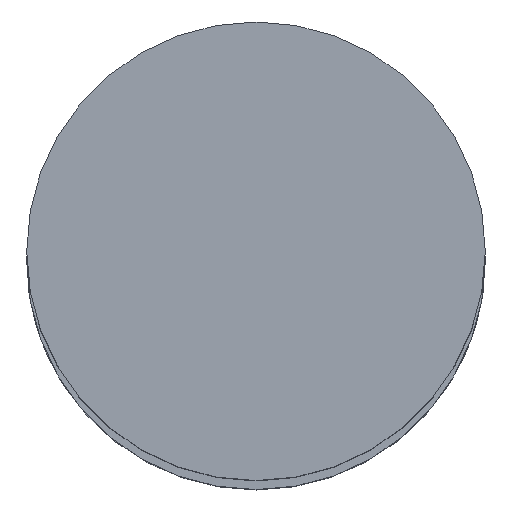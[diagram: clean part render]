
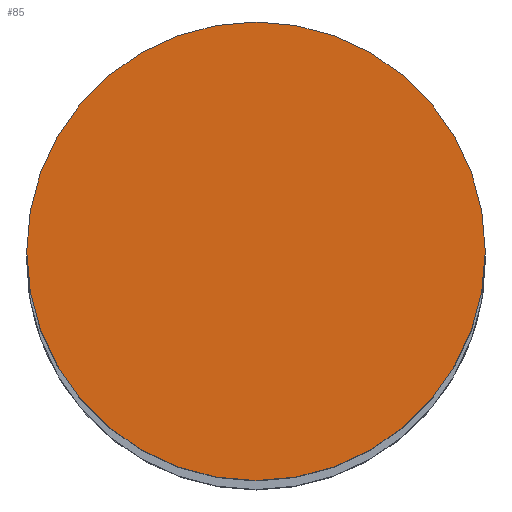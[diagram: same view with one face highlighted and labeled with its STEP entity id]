
A CAD part, top view. The second image highlights one B-rep face of the part: STEP entity #85.
In plain terms, the highlighted planar face has unit normal (0, 0, 1).
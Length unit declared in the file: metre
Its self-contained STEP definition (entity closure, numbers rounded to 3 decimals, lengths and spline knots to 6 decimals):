
#85=ADVANCED_FACE('56:4857',(#165),#166,.F.);
#165=FACE_OUTER_BOUND('',#244,.T.);
#166=PLANE('',#245);
#244=EDGE_LOOP('',(#390,#391));
#245=AXIS2_PLACEMENT_3D('',#392,#393,#394);
#390=ORIENTED_EDGE('',*,*,#433,.F.);
#391=ORIENTED_EDGE('',*,*,#478,.F.);
#392=CARTESIAN_POINT('',(-0.000092,0.000095,3.084));
#393=DIRECTION('',(0.0,0.0,-1.0));
#394=DIRECTION('',(1.0,0.0,0.0));
#433=EDGE_CURVE('27:1418',#505,#501,#507,.T.);
#478=EDGE_CURVE('',#501,#505,#572,.T.);
#501=VERTEX_POINT('',#607);
#505=VERTEX_POINT('',#612);
#507=CIRCLE('',#615,0.0155);
#572=CIRCLE('',#694,0.0155);
#607=CARTESIAN_POINT('',(0.015408,0.000095,3.084));
#612=CARTESIAN_POINT('',(-0.015592,0.000095,3.084));
#615=AXIS2_PLACEMENT_3D('',#736,#737,#738);
#694=AXIS2_PLACEMENT_3D('',#801,#802,#803);
#736=CARTESIAN_POINT('',(-0.000092,0.000095,3.084));
#737=DIRECTION('',(0.0,0.0,-1.0));
#738=DIRECTION('',(1.0,0.0,0.0));
#801=CARTESIAN_POINT('',(-0.000092,0.000095,3.084));
#802=DIRECTION('',(0.0,0.0,-1.0));
#803=DIRECTION('',(1.0,0.0,0.0));
